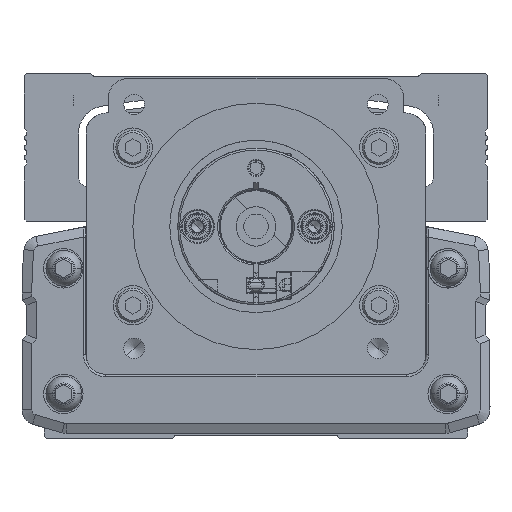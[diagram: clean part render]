
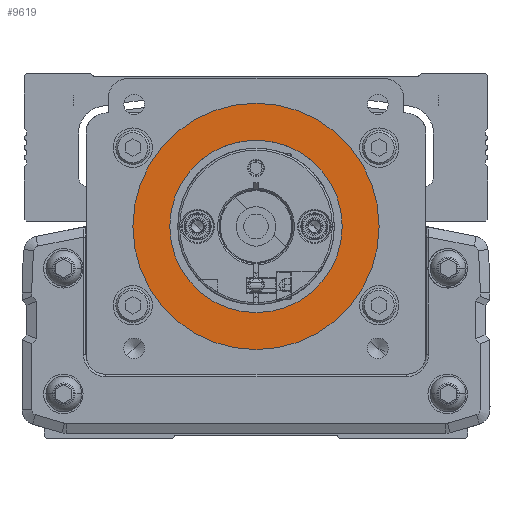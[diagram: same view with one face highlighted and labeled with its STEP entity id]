
A CAD part, front view. The second image highlights one B-rep face of the part: STEP entity #9619.
In plain terms, the highlighted planar face has unit normal (0, -1, 0).
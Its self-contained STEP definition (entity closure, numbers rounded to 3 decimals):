
#9619=ADVANCED_FACE('',(#19471,#19472),#19473,.T.);
#19471=FACE_BOUND('',#31392,.T.);
#19472=FACE_OUTER_BOUND('',#31393,.T.);
#19473=PLANE('',#31394);
#31392=EDGE_LOOP('',(#59343,#59344));
#31393=EDGE_LOOP('',(#59345,#59346));
#31394=AXIS2_PLACEMENT_3D('',#59347,#59348,#59349);
#59343=ORIENTED_EDGE('',*,*,#64538,.T.);
#59344=ORIENTED_EDGE('',*,*,#66325,.T.);
#59345=ORIENTED_EDGE('',*,*,#61563,.F.);
#59346=ORIENTED_EDGE('',*,*,#70622,.F.);
#59347=CARTESIAN_POINT('',(0.,-260.778,0.));
#59348=DIRECTION('',(0.,-1.0,0.));
#59349=DIRECTION('',(1.0,0.,0.));
#61563=EDGE_CURVE('',#73982,#73985,#73986,.T.);
#64538=EDGE_CURVE('',#78856,#78854,#78857,.T.);
#66325=EDGE_CURVE('',#78854,#78856,#81469,.T.);
#70622=EDGE_CURVE('',#73985,#73982,#86657,.T.);
#73982=VERTEX_POINT('',#91293);
#73985=VERTEX_POINT('',#91297);
#73986=CIRCLE('',#91298,25.0);
#78854=VERTEX_POINT('',#98297);
#78856=VERTEX_POINT('',#98300);
#78857=CIRCLE('',#98301,17.5);
#81469=CIRCLE('',#102115,17.5);
#86657=CIRCLE('',#109925,25.0);
#91293=CARTESIAN_POINT('',(25.,-260.778,0.));
#91297=CARTESIAN_POINT('',(-25.,-260.778,0.));
#91298=AXIS2_PLACEMENT_3D('',#112745,#112746,#112747);
#98297=CARTESIAN_POINT('',(-17.5,-260.778,0.));
#98300=CARTESIAN_POINT('',(17.5,-260.778,0.));
#98301=AXIS2_PLACEMENT_3D('',#116744,#116745,#116746);
#102115=AXIS2_PLACEMENT_3D('',#119209,#119210,#119211);
#109925=AXIS2_PLACEMENT_3D('',#123412,#123413,#123414);
#112745=CARTESIAN_POINT('',(0.,-260.778,0.));
#112746=DIRECTION('',(0.,1.0,0.));
#112747=DIRECTION('',(1.0,0.,0.));
#116744=CARTESIAN_POINT('',(0.,-260.778,0.));
#116745=DIRECTION('',(0.,1.0,0.));
#116746=DIRECTION('',(-1.0,0.,0.));
#119209=CARTESIAN_POINT('',(0.,-260.778,0.));
#119210=DIRECTION('',(0.,1.0,0.));
#119211=DIRECTION('',(-1.0,0.,0.));
#123412=CARTESIAN_POINT('',(0.,-260.778,0.));
#123413=DIRECTION('',(0.,1.0,0.));
#123414=DIRECTION('',(1.0,0.,0.));
